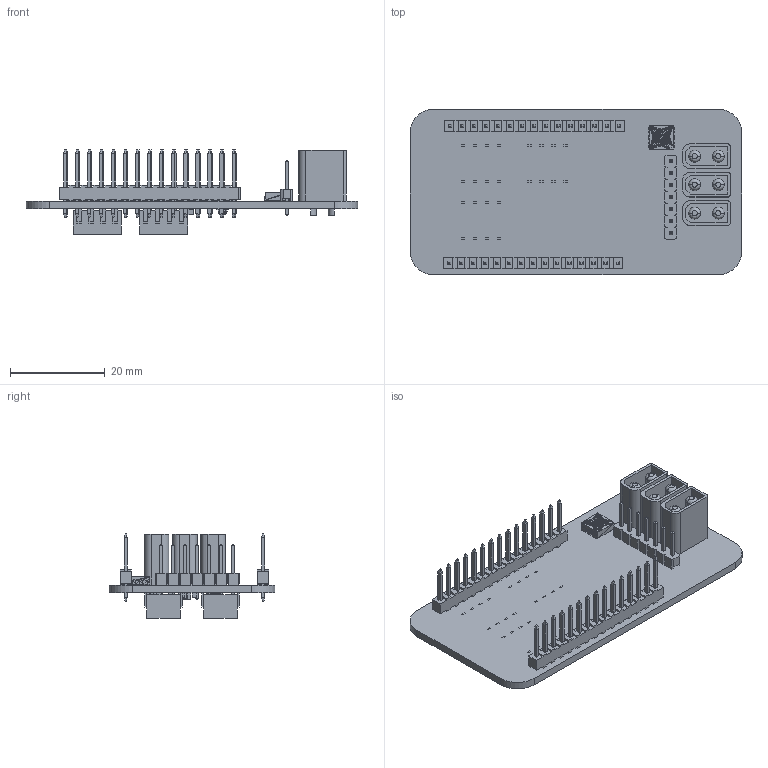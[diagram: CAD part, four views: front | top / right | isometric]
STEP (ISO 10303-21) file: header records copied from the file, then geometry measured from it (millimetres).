
FILE_DESCRIPTION(('Open CASCADE Model'),'2;1');
FILE_NAME('Open CASCADE Shape Model','2019-08-24T12:19:05',('Author'),( 'Open CASCADE'),'Open CASCADE STEP processor 6.5','Open CASCADE 6.5' ,'Unknown');
FILE_SCHEMA(('AUTOMOTIVE_DESIGN { 1 0 10303 214 1 1 1 1 }'));
Length unit declared in the file: millimetre
Products named in the file (41): PCB; Board; D3; 1887669168; Extruded; 1887669296; 1922815136; 1922815264; D4; D2; D1; WS2812; J4; 61300711121_(rev1); 6130xx11121_PIN; 61300711121; J2; XT30U-M(1); J3; J1; Q1; User_Library-SOT95P240X110-3M[SOT23-3_TO-236AB]; R5; 1887668912; 1887669040; R4; R3; R2; R1; U1; 022032151; SOLID; COMPOUND; U2; 1887668784
Assembly tree (133 placements, depth 4):
  PCB
    Board
    D3
      1887669168
        Extruded
      1887669296  x8
        Extruded
      1922815136  x8
        Extruded
      1922815264  x8
        Extruded
    D4
      1887669168
        Extruded
      1887669296  x8
        Extruded
      1922815136  x8
        Extruded
      1922815264  x8
        Extruded
    D2
      1887669168
        Extruded
      1887669296  x8
        Extruded
      1922815136  x8
        Extruded
      1922815264  x8
        Extruded
    D1
      WS2812
    J4
      61300711121_(rev1)
        6130xx11121_PIN  x7
        61300711121
    J2
      XT30U-M(1)
    J3
      XT30U-M(1)
    J1
      XT30U-M(1)
    Q1
      User_Library-SOT95P240X110-3M[SOT23-3_TO-236AB]
    R5
      1887668912
        Extruded
      1887669040  x2
        Extruded
    R4
      1887668912
        Extruded
      1887669040  x2
        Extruded
    R3
      1887668912
        Extruded
      1887669040  x2
        Extruded
    R2
      1887668912
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Bounding box: 70.01 x 35 x 17.81 mm (x, y, z)
Volume: 6983 mm3; surface area: 11166.4 mm2
Topology: 106 solids, 107 shells, 2430 faces, 5413 edges, 3344 vertices
Faces by surface type: plane 2217, bspline 103, cylinder 90, revolution 12, sphere 8
Entity records: 87100 total; most frequent: CARTESIAN_POINT 24810, DIRECTION 10777, LINE 7699, VECTOR 7699, ORIENTED_EDGE 5844, PCURVE 5844, DEFINITIONAL_REPRESENTATION 5844, EDGE_CURVE 2971
